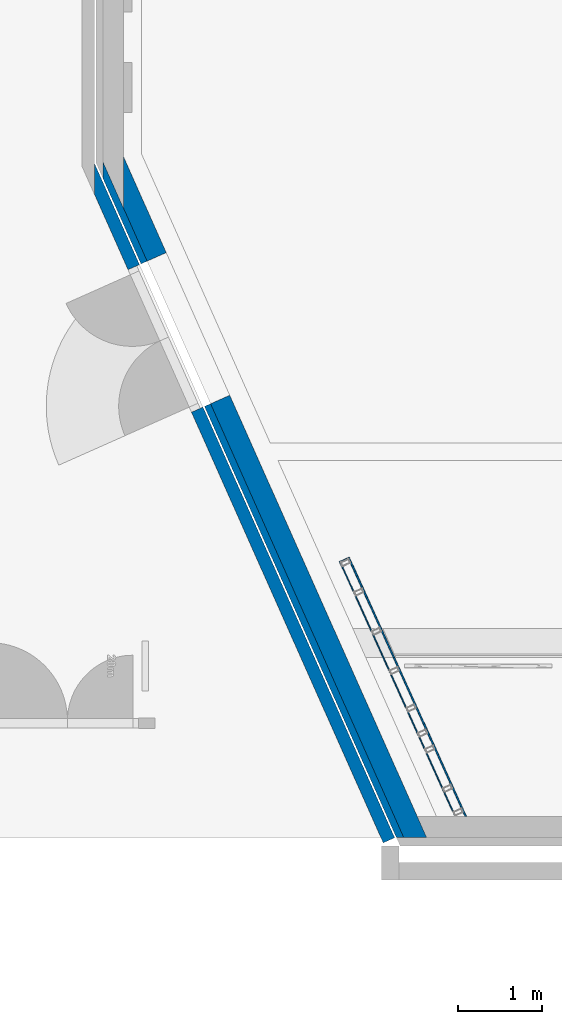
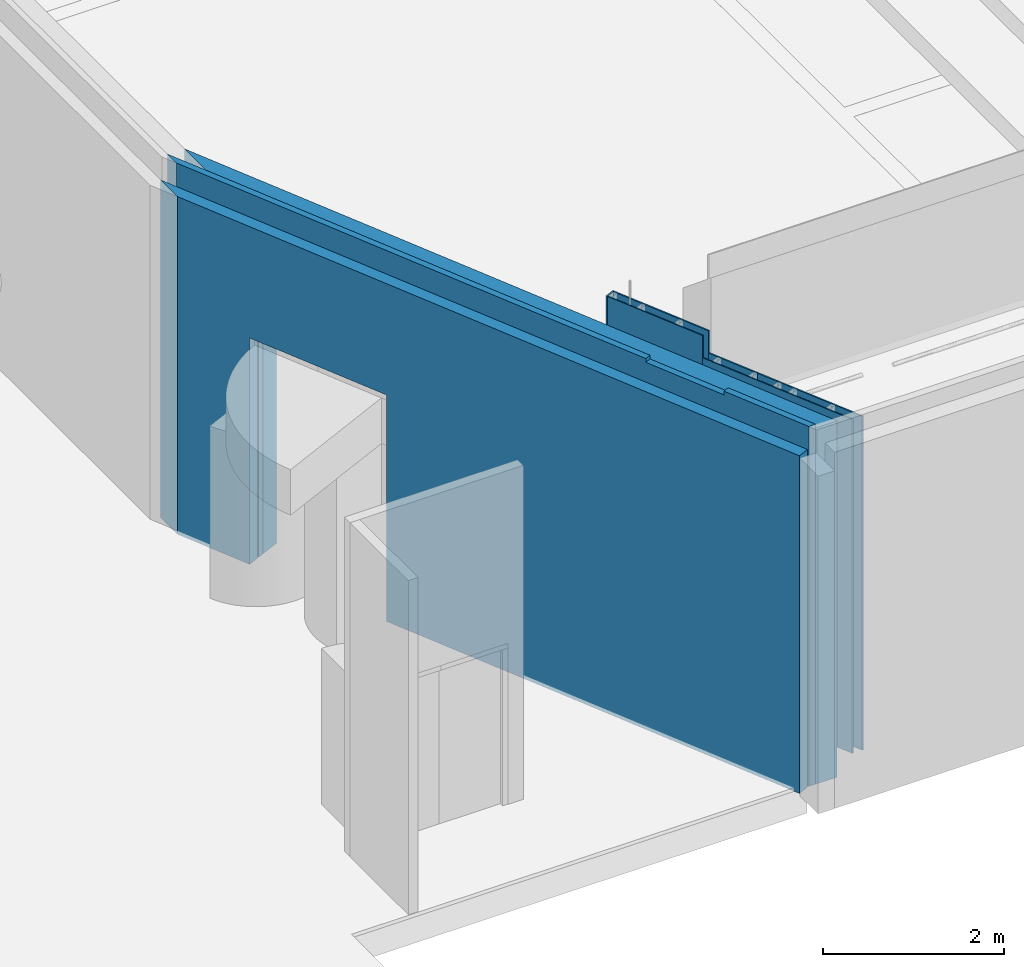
# One storey, part 7 of 19: 10 walls, 5 openings.
"""IFC2X3 building model written with IfcOpenShell, lengths in millimetres."""

from ifc_helpers import new_model, entity, si_unit, converted_unit, derived_unit, direction, frame, frame_2d, origin, origin_2d_with_axis, place, context, subcontext, project, spatial, polyline, rectangle, outline, extrude, clip, halfspace, material, layer, layer_set, layer_usage, type_object, element, save


model = new_model("IFC2X3")

# Units and contexts
model_context = context("Model", 3, precision=0.01, world=origin(), true_north=direction((6.123031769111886e-17, 1.0)))
body_context = subcontext(model_context, "Body", "Model", "MODEL_VIEW")
ifc_project = project(units=[si_unit("LENGTHUNIT", "METRE", prefix="MILLI"), si_unit("AREAUNIT", "SQUARE_METRE"), si_unit("VOLUMEUNIT", "CUBIC_METRE"), converted_unit("PLANEANGLEUNIT", "DEGREE", entity("IfcRatioMeasure", 0.017453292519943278), si_unit("PLANEANGLEUNIT", "RADIAN"), dimensions=[0, 0, 0, 0, 0, 0, 0]), si_unit("MASSUNIT", "GRAM", prefix="KILO"), derived_unit("MASSDENSITYUNIT", [(si_unit("MASSUNIT", "GRAM", prefix="KILO"), 1), (si_unit("LENGTHUNIT", "METRE"), -3)]), derived_unit("MOMENTOFINERTIAUNIT", [(si_unit("LENGTHUNIT", "METRE"), 4)]), si_unit("TIMEUNIT", "SECOND"), si_unit("FREQUENCYUNIT", "HERTZ"), si_unit("THERMODYNAMICTEMPERATUREUNIT", "DEGREE_CELSIUS"), derived_unit("THERMALTRANSMITTANCEUNIT", [(si_unit("MASSUNIT", "GRAM", prefix="KILO"), 1), (si_unit("THERMODYNAMICTEMPERATUREUNIT", "KELVIN"), -1), (si_unit("TIMEUNIT", "SECOND"), -3)]), derived_unit("VOLUMETRICFLOWRATEUNIT", [(si_unit("LENGTHUNIT", "METRE"), 3), (si_unit("TIMEUNIT", "SECOND"), -1)]), derived_unit("MASSFLOWRATEUNIT", [(si_unit("MASSUNIT", "GRAM", prefix="KILO"), 1), (si_unit("TIMEUNIT", "SECOND"), -1)]), derived_unit("ROTATIONALFREQUENCYUNIT", [(si_unit("TIMEUNIT", "SECOND"), -1)]), si_unit("ELECTRICCURRENTUNIT", "AMPERE"), si_unit("ELECTRICVOLTAGEUNIT", "VOLT"), si_unit("POWERUNIT", "WATT"), si_unit("FORCEUNIT", "NEWTON", prefix="KILO"), si_unit("ILLUMINANCEUNIT", "LUX"), si_unit("LUMINOUSFLUXUNIT", "LUMEN"), si_unit("LUMINOUSINTENSITYUNIT", "CANDELA"), derived_unit("USERDEFINED", [(si_unit("MASSUNIT", "GRAM", prefix="KILO"), -1), (si_unit("LENGTHUNIT", "METRE"), -2), (si_unit("TIMEUNIT", "SECOND"), 3), (si_unit("LUMINOUSFLUXUNIT", "LUMEN"), 1)]), derived_unit("SOUNDPOWERUNIT", [(si_unit("MASSUNIT", "GRAM", prefix="KILO"), 1), (si_unit("LENGTHUNIT", "METRE"), 2), (si_unit("TIMEUNIT", "SECOND"), -3)]), derived_unit("SOUNDPRESSUREUNIT", [(si_unit("MASSUNIT", "GRAM", prefix="KILO"), 1), (si_unit("LENGTHUNIT", "METRE"), -1), (si_unit("TIMEUNIT", "SECOND"), -2)]), derived_unit("LINEARVELOCITYUNIT", [(si_unit("LENGTHUNIT", "METRE"), 1), (si_unit("TIMEUNIT", "SECOND"), -1)]), si_unit("PRESSUREUNIT", "PASCAL"), derived_unit("USERDEFINED", [(si_unit("LENGTHUNIT", "METRE"), -2), (si_unit("MASSUNIT", "GRAM", prefix="KILO"), 1), (si_unit("TIMEUNIT", "SECOND"), -2)]), derived_unit("LINEARFORCEUNIT", [(si_unit("MASSUNIT", "GRAM", prefix="KILO"), 1), (si_unit("LENGTHUNIT", "METRE"), 1), (si_unit("TIMEUNIT", "SECOND"), -2), (si_unit("LENGTHUNIT", "METRE"), -1)]), derived_unit("PLANARFORCEUNIT", [(si_unit("MASSUNIT", "GRAM", prefix="KILO"), 1), (si_unit("LENGTHUNIT", "METRE"), 1), (si_unit("TIMEUNIT", "SECOND"), -2), (si_unit("LENGTHUNIT", "METRE"), -2)])], contexts=[model_context])

# Site, building, storey
site_placement = place(None, frame((-10000.0, -10000.0, 0.0)))
site = spatial("IfcSite", under=ifc_project, at=site_placement, Name="Default", CompositionType="ELEMENT")
building_placement = place(site_placement, origin())
building = spatial("IfcBuilding", under=site, at=building_placement, CompositionType="ELEMENT")
storey_placement = place(building_placement, frame((0.0, 0.0, 4200.0)))
storey = spatial("IfcBuildingStorey", under=building, at=storey_placement, Name="01 1e verdieping", CompositionType="ELEMENT", Elevation=4200.000000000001)

# Wall, opening
ifc_material_1 = material(Name="NLRS_beton ihwg")
ifc_layer_1 = layer(ifc_material_1, 250.00000000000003)
ifc_layer_set_1 = layer_set([ifc_layer_1], Name="Basic Wall:NLRS_21_WA_beton 250mm_ags")
ifc_layer_usage_1 = layer_usage(ifc_layer_set_1, "AXIS2", "NEGATIVE", 125.00000000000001)
wall_type_1 = type_object("IfcWallType", Name="Basic Wall:NLRS_21_WA_beton 250mm_ags", PredefinedType="STANDARD", material=ifc_layer_set_1)
wall_1_placement = place(storey_placement, frame((25660.80681748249, 35955.53941240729, -50.0), z_axis=(0.0, 0.0, 1.0), x_axis=(0.40673664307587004, -0.9135454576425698, 0.0)))
wall_1 = element("IfcWallStandardCase", 1, at=wall_1_placement, inside=storey, type_object=wall_type_1, material=ifc_layer_usage_1, Name="Basic Wall:NLRS_21_WA_beton 250mm_ags", ObjectType="Basic Wall:NLRS_21_WA_beton 250mm_ags", context=body_context, shape_type="SweptSolid", body=[
    extrude(outline(polyline([(561.5091934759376, -125.0), (8789.598005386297, -125.0), (8900.905176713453, 125.0), (0.0, 125.0), (561.5091934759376, -125.0)])), origin(), (0.0, 0.0, 1.0), 4799.999999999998),
])
opening_1_placement = place(wall_1_placement, origin())
element("IfcOpeningElement", 2, at=opening_1_placement, cuts=wall_1, Name="Basic Wall:NLRS_21_WA_beton 250mm_ags", ObjectType="Opening", context=body_context, shape_type="SweptSolid", body=[
    extrude(rectangle(XDim=3049.9999999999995, YDim=1865.0000000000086, at=frame_2d((0.0, 1.9895196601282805e-12), x_axis=(1.0, 0.0))), frame((2182.5000000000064, -125.0, 1525.0), z_axis=(0.0, 1.0, 0.0), x_axis=(0.0, 0.0, -1.0)), (0.0, 0.0, 1.0), 250.0000000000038),
])

# Wall, openings
ifc_material_2 = material(Name="NLRS_kalkzandsteen")
ifc_layer_2 = layer(ifc_material_2, 150.0)
ifc_layer_set_2 = layer_set([ifc_layer_2], Name="Basic Wall:NLRS_22_WA_kalkzandsteen 150mm_ags")
ifc_layer_usage_2 = layer_usage(ifc_layer_set_2, "AXIS2", "NEGATIVE", 75.0)
wall_type_2 = type_object("IfcWallType", Name="Basic Wall:NLRS_22_WA_kalkzandsteen 150mm_ags", PredefinedType="STANDARD", material=ifc_layer_set_2)
wall_2_placement = place(storey_placement, frame((25356.48409036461, 35901.48144797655, -50.0), z_axis=(0.0, 0.0, 1.0), x_axis=(0.4067366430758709, -0.9135454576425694, 0.0)))
wall_2 = element("IfcWallStandardCase", 3, at=wall_2_placement, inside=storey, type_object=wall_type_2, material=ifc_layer_usage_2, Name="Basic Wall:NLRS_22_WA_kalkzandsteen 150mm_ags", ObjectType="Basic Wall:NLRS_22_WA_kalkzandsteen 150mm_ags", context=body_context, shape_type="SweptSolid", body=[
    extrude(outline(polyline([(336.90551608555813, -75.0), (8824.058257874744, -75.0), (8824.058257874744, 75.0), (0.0, 75.0), (336.90551608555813, -75.0)])), origin(), (0.0, 0.0, 1.0), 4549.999999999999),
])
opening_2_placement = place(wall_2_placement, origin())
element("IfcOpeningElement", 4, at=opening_2_placement, cuts=wall_2, Name="Basic Wall:NLRS_22_WA_kalkzandsteen 150mm_ags", ObjectType="Opening", context=body_context, shape_type="SweptSolid", body=[
    extrude(rectangle(XDim=3049.9999999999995, YDim=1864.9999999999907, at=frame_2d((0.0, 2.8421709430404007e-12), x_axis=(1.0, 0.0))), frame((2256.894796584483, -75.0, 1525.0), z_axis=(0.0, 1.0, 0.0), x_axis=(0.0, 0.0, -1.0)), (0.0, 0.0, 1.0), 150.0000000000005),
])
opening_3_placement = place(wall_2_placement, origin())
element("IfcOpeningElement", 5, at=opening_3_placement, cuts=wall_2, Name="Basic Wall:NLRS_22_WA_kalkzandsteen 150mm_ags", ObjectType="Opening", context=body_context, shape_type="SweptSolid", body=[
    extrude(rectangle(XDim=2999.9999999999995, YDim=1864.9999999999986, at=frame_2d((-2.8421709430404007e-12, 2.2737367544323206e-13), x_axis=(0.0, 1.0))), frame((2256.894796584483, -227.39999999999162, 1550.0), z_axis=(0.0, 1.0, 0.0), x_axis=(-1.0, 0.0, 0.0)), (0.0, 0.0, 1.0), 454.7999999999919),
])

# Walls
ifc_material_3 = material(Name="NLRS_multiplex")
ifc_layer_3 = layer(ifc_material_3, 18.0)
ifc_layer_set_3 = layer_set([ifc_layer_3], Name="Basic Wall:NLRS_42_WA_multiplex 18mm_ags")
ifc_layer_usage_3 = layer_usage(ifc_layer_set_3, "AXIS2", "POSITIVE", -9.000000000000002)
wall_type_3 = type_object("IfcWallType", Name="Basic Wall:NLRS_42_WA_multiplex 18mm_ags", PredefinedType="STANDARD", material=ifc_layer_set_3)
wall_3_placement = place(storey_placement, frame((29277.028143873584, 29422.773163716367, 0.0), z_axis=(0.0, 0.0, 1.0), x_axis=(-0.41221137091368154, 0.9110882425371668, 0.0)))
element("IfcWallStandardCase", 6, at=wall_3_placement, inside=storey, type_object=wall_type_3, material=ifc_layer_usage_3, Name="Basic Wall:NLRS_42_WA_multiplex 18mm_ags", ObjectType="Basic Wall:NLRS_42_WA_multiplex 18mm_ags", context=body_context, shape_type="SweptSolid", body=[
    extrude(rectangle(XDim=660.9972641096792, YDim=17.99999999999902, at=frame_2d((330.4986320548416, -9.769962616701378e-15), x_axis=(-1.0, 0.0))), origin(), (0.0, 0.0, 1.0), 4499.999999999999),
])
ifc_layer_usage_4 = layer_usage(ifc_layer_set_3, "AXIS2", "POSITIVE", -9.000000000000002)
wall_4_placement = place(storey_placement, frame((29392.447327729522, 29167.668455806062, 0.0), z_axis=(0.0, 0.0, 1.0), x_axis=(-0.41221137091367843, 0.9110882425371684, 0.0)))
element("IfcWallStandardCase", 7, at=wall_4_placement, inside=storey, type_object=wall_type_3, material=ifc_layer_usage_4, Name="Basic Wall:NLRS_42_WA_multiplex 18mm_ags", ObjectType="Basic Wall:NLRS_42_WA_multiplex 18mm_ags", context=body_context, shape_type="SweptSolid", body=[
    extrude(rectangle(XDim=279.9999999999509, YDim=17.99999999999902, at=frame_2d((139.99999999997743, -1.623590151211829e-12), x_axis=(-1.0, 0.0))), origin(), (0.0, 0.0, 1.0), 4499.999999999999),
])
ifc_layer_usage_5 = layer_usage(ifc_layer_set_3, "AXIS2", "NEGATIVE", 9.000000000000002)
wall_5_placement = place(storey_placement, frame((29392.44732772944, 29167.66845580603, 0.0), z_axis=(0.0, 0.0, 1.0), x_axis=(0.4122113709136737, -0.9110882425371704, 0.0)))
element("IfcWallStandardCase", 8, at=wall_5_placement, inside=storey, type_object=wall_type_3, material=ifc_layer_usage_5, Name="Basic Wall:NLRS_42_WA_multiplex 18mm_ags", ObjectType="Basic Wall:NLRS_42_WA_multiplex 18mm_ags", context=body_context, shape_type="SweptSolid", body=[
    extrude(outline(polyline([(1140.3489862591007, -9.0), (1148.4928787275, 9.0), (0.0, 9.0), (0.0, -9.0), (1140.3489862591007, -9.0)])), origin(), (0.0, 0.0, 1.0), 4499.999999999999),
])
ifc_layer_usage_6 = layer_usage(ifc_layer_set_3, "AXIS2", "NEGATIVE", 9.000000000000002)
wall_6_placement = place(storey_placement, frame((28475.219589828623, 31216.800205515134, 0.0), z_axis=(0.0, 0.0, 1.0), x_axis=(-0.9110882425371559, -0.41221137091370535, 0.0)))
element("IfcWallStandardCase", 9, at=wall_6_placement, inside=storey, type_object=wall_type_3, material=ifc_layer_usage_6, Name="Basic Wall:NLRS_42_WA_multiplex 18mm_ags", ObjectType="Basic Wall:NLRS_42_WA_multiplex 18mm_ags", context=body_context, shape_type="Clipping", body=[
    clip(extrude(rectangle(XDim=130.50000000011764, YDim=17.999999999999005, at=frame_2d((65.25000000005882, 1.1617373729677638e-12), x_axis=(-1.0, 0.0))), origin(), (0.0, 0.0, 1.0), 4800.0), halfspace(origin(), True)),
])
ifc_layer_usage_7 = layer_usage(ifc_layer_set_3, "AXIS2", "NEGATIVE", 9.000000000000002)
wall_7_placement = place(storey_placement, frame((28470.72969798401, 31204.890508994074, 0.0), z_axis=(0.0, 0.0, 1.0), x_axis=(0.4122113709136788, -0.9110882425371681, 0.0)))
element("IfcWallStandardCase", 10, at=wall_7_placement, inside=storey, type_object=wall_type_3, material=ifc_layer_usage_7, Name="Basic Wall:NLRS_42_WA_multiplex 18mm_ags", ObjectType="Basic Wall:NLRS_42_WA_multiplex 18mm_ags", context=body_context, shape_type="Clipping", body=[
    clip(extrude(rectangle(XDim=1295.0342837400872, YDim=17.99999999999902, at=frame_2d((647.5171418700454, 4.0749625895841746e-12), x_axis=(-1.0, 0.0))), origin(), (0.0, 0.0, 1.0), 4800.0), halfspace(origin(), True)),
])
ifc_layer_4 = layer(ifc_material_3, 13.000000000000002)
ifc_layer_set_4 = layer_set([ifc_layer_4], Name="Basic Wall:NLRS_42_WA_multiplex 13mm_ags")
ifc_layer_usage_8 = layer_usage(ifc_layer_set_4, "AXIS2", "POSITIVE", -6.499999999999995)
wall_type_4 = type_object("IfcWallType", Name="Basic Wall:NLRS_42_WA_multiplex 13mm_ags", PredefinedType="STANDARD", material=ifc_layer_set_4)
wall_8_placement = place(storey_placement, frame((29739.18022070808, 28122.32062578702, 0.0), z_axis=(0.0, 0.0, 1.0), x_axis=(-0.4122113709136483, 0.911088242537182, 0.0)))
element("IfcWallStandardCase", 11, at=wall_8_placement, inside=storey, type_object=wall_type_4, material=ifc_layer_usage_8, Name="Basic Wall:NLRS_42_WA_multiplex 13mm_ags", ObjectType="Basic Wall:NLRS_42_WA_multiplex 13mm_ags", context=body_context, shape_type="SweptSolid", body=[
    extrude(outline(polyline([(2036.3286225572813, -6.500000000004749), (2036.3286225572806, 6.499999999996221), (5.881700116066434, 6.499999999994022), (0.0, -6.500000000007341), (2036.3286225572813, -6.500000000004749)])), origin(), (0.0, 0.0, 1.0), 4499.999999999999),
])
ifc_layer_usage_9 = layer_usage(ifc_layer_set_4, "AXIS2", "NEGATIVE", 6.499999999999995)
wall_9_placement = place(storey_placement, frame((28365.95455009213, 31157.48620133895, 0.0), z_axis=(0.0, 0.0, 1.0), x_axis=(0.4122113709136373, -0.9110882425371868, 0.0)))
element("IfcWallStandardCase", 12, at=wall_9_placement, inside=storey, type_object=wall_type_4, material=ifc_layer_usage_9, Name="Basic Wall:NLRS_42_WA_multiplex 13mm_ags", ObjectType="Basic Wall:NLRS_42_WA_multiplex 13mm_ags", context=body_context, shape_type="Clipping", body=[
    clip(extrude(rectangle(XDim=1295.0342837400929, YDim=13.000000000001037, at=frame_2d((647.5171418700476, -3.205880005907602e-12), x_axis=(-1.0, 0.0))), origin(), (0.0, 0.0, 1.0), 4799.999999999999), halfspace(origin(), True)),
])

# Wall, openings
ifc_material_4 = material(Name="NLRS_isolatie")
ifc_layer_5 = layer(ifc_material_4, 80.0)
ifc_layer_set_5 = layer_set([ifc_layer_5], Name="Basic Wall:NLRS_21_WA_isolatie 80mm_ags")
ifc_layer_usage_10 = layer_usage(ifc_layer_set_5, "AXIS2", "NEGATIVE", 40.0)
wall_type_5 = type_object("IfcWallType", Name="Basic Wall:NLRS_21_WA_isolatie 80mm_ags", PredefinedType="STANDARD", material=ifc_layer_set_5)
wall_10_placement = place(storey_placement, frame((29085.12340366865, 27858.73053397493, -50.0), z_axis=(0.0, 0.0, 1.0), x_axis=(-0.4067366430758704, 0.9135454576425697, 0.0)))
wall_10 = element("IfcWallStandardCase", 13, at=wall_10_placement, inside=storey, type_object=wall_type_5, material=ifc_layer_usage_10, Name="Basic Wall:NLRS_21_WA_isolatie 80mm_ags", ObjectType="Basic Wall:NLRS_21_WA_isolatie 80mm_ags", context=body_context, shape_type="Clipping", body=[
    clip(extrude(outline(polyline([(0.0, -40.0), (8842.737145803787, -40.0), (8663.054203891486, 40.0), (35.6182948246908, 40.0), (0.0, -40.0)])), origin(), (0.0, 0.0, 1.0), 4850.0), halfspace(frame((0.0, 0.0, -50.0)), True)),
])
opening_4_placement = place(wall_10_placement, origin())
element("IfcOpeningElement", 14, at=opening_4_placement, cuts=wall_10, Name="Basic Wall:NLRS_21_WA_isolatie 80mm_ags", ObjectType="Opening", context=body_context, shape_type="SweptSolid", body=[
    extrude(rectangle(XDim=3049.9999999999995, YDim=1865.000000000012, at=origin_2d_with_axis()), frame((6607.098005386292, -40.0, 1525.0), z_axis=(0.0, 1.0, 0.0), x_axis=(0.0, 0.0, -1.0)), (0.0, 0.0, 1.0), 79.99999999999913),
])
opening_5_placement = place(wall_10_placement, origin())
element("IfcOpeningElement", 15, at=opening_5_placement, cuts=wall_10, Name="Basic Wall:NLRS_21_WA_isolatie 80mm_ags", ObjectType="Opening", context=body_context, shape_type="SweptSolid", body=[
    extrude(rectangle(XDim=2220.0, YDim=1065.0000000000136, at=frame_2d((-1.1368683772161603e-12, 1.9895196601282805e-12), x_axis=(1.0, 0.0))), frame((1727.5000000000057, -40.0, 5910.0), z_axis=(0.0, 1.0, 0.0), x_axis=(0.0, 0.0, -1.0)), (0.0, 0.0, 1.0), 80.00000000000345),
])

save(model, "model.ifc")
